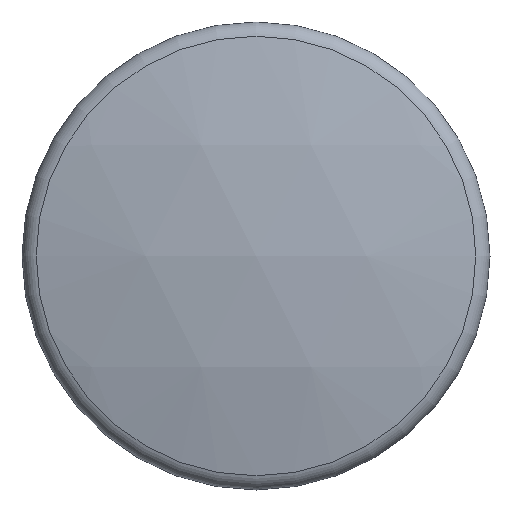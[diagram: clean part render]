
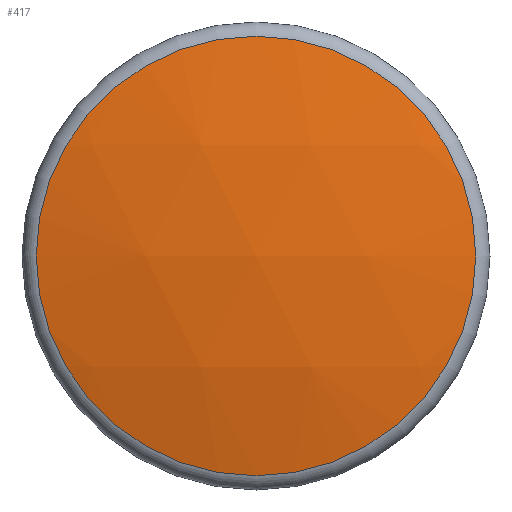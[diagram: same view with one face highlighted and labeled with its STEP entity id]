
A CAD part, front view. The second image highlights one B-rep face of the part: STEP entity #417.
In plain terms, the highlighted spherical face has radius 100 mm.
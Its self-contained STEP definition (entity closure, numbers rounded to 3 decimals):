
#17=SPHERICAL_SURFACE('',#485,100.);
#49=FACE_OUTER_BOUND('',#62,.T.);
#62=EDGE_LOOP('',(#383));
#93=CIRCLE('',#484,23.587);
#208=VERTEX_POINT('',#1124);
#289=EDGE_CURVE('',#208,#208,#93,.T.);
#383=ORIENTED_EDGE('',*,*,#289,.F.);
#417=ADVANCED_FACE('',(#49),#17,.T.);
#484=AXIS2_PLACEMENT_3D('',#1126,#576,#577);
#485=AXIS2_PLACEMENT_3D('',#1127,#578,#579);
#576=DIRECTION('center_axis',(0.,1.,0.));
#577=DIRECTION('ref_axis',(0.,0.,1.));
#578=DIRECTION('center_axis',(0.,0.,1.));
#579=DIRECTION('ref_axis',(1.,0.,0.));
#1124=CARTESIAN_POINT('',(0.,-15.178,-23.587));
#1126=CARTESIAN_POINT('Origin',(0.,-15.178,0.));
#1127=CARTESIAN_POINT('Origin',(0.,82.,0.));
